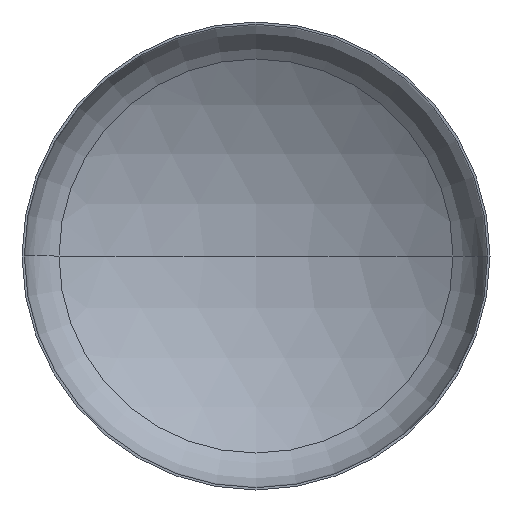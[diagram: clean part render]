
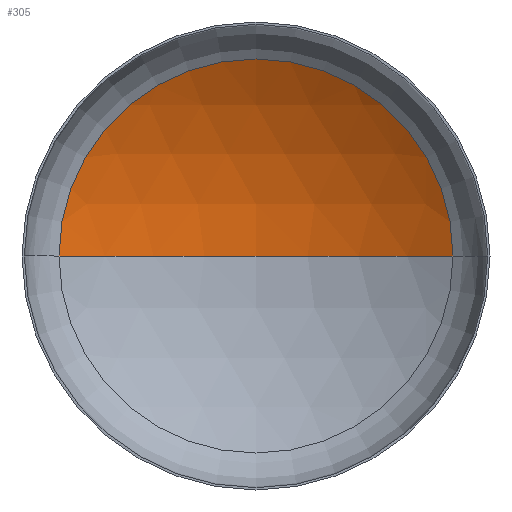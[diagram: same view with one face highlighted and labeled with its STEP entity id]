
A CAD part, front view. The second image highlights one B-rep face of the part: STEP entity #305.
In plain terms, the highlighted spherical face has radius 640 mm.
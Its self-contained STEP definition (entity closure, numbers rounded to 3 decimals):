
#8 = DIRECTION ( 'NONE',  ( -1., 0., 0. ) ) ;
#9 = DIRECTION ( 'NONE',  ( 0., 0., -1. ) ) ;
#11 = AXIS2_PLACEMENT_3D ( 'NONE', #179, #87, #270 ) ;
#23 = CIRCLE ( 'NONE', #43, 336.777 ) ;
#26 = ORIENTED_EDGE ( 'NONE', *, *, #114, .T. ) ;
#27 = CARTESIAN_POINT ( 'NONE',  ( -336.777, 126.294, 0. ) ) ;
#34 = AXIS2_PLACEMENT_3D ( 'NONE', #357, #89, #170 ) ;
#35 = AXIS2_PLACEMENT_3D ( 'NONE', #378, #9, #8 ) ;
#41 = ORIENTED_EDGE ( 'NONE', *, *, #132, .F. ) ;
#43 = AXIS2_PLACEMENT_3D ( 'NONE', #183, #186, #194 ) ;
#87 = DIRECTION ( 'NONE',  ( 0., 0., -1. ) ) ;
#89 = DIRECTION ( 'NONE',  ( 0., 0., 1. ) ) ;
#101 = EDGE_CURVE ( 'NONE', #178, #203, #23, .T. ) ;
#114 = EDGE_CURVE ( 'NONE', #181, #178, #365, .T. ) ;
#132 = EDGE_CURVE ( 'NONE', #181, #203, #159, .T. ) ;
#155 = CARTESIAN_POINT ( 'NONE',  ( 0., 222.068, 0. ) ) ;
#157 = CARTESIAN_POINT ( 'NONE',  ( 336.777, 126.294, 0. ) ) ;
#159 = CIRCLE ( 'NONE', #34, 640. ) ;
#170 = DIRECTION ( 'NONE',  ( 1., 0., 0. ) ) ;
#178 = VERTEX_POINT ( 'NONE', #157 ) ;
#179 = CARTESIAN_POINT ( 'NONE',  ( 0., -417.932, 0. ) ) ;
#181 = VERTEX_POINT ( 'NONE', #155 ) ;
#183 = CARTESIAN_POINT ( 'NONE',  ( 0., 126.294, 0. ) ) ;
#186 = DIRECTION ( 'NONE',  ( 0., -1., 0. ) ) ;
#194 = DIRECTION ( 'NONE',  ( 1., 0., 0. ) ) ;
#203 = VERTEX_POINT ( 'NONE', #27 ) ;
#214 = EDGE_LOOP ( 'NONE', ( #41, #26, #240 ) ) ;
#240 = ORIENTED_EDGE ( 'NONE', *, *, #101, .T. ) ;
#270 = DIRECTION ( 'NONE',  ( -1., 0., 0. ) ) ;
#305 = ADVANCED_FACE ( 'NONE', ( #411 ), #334, .F. ) ;
#334 = SPHERICAL_SURFACE ( 'NONE', #11, 640. ) ;
#357 = CARTESIAN_POINT ( 'NONE',  ( 0., -417.932, 0. ) ) ;
#365 = CIRCLE ( 'NONE', #35, 640. ) ;
#378 = CARTESIAN_POINT ( 'NONE',  ( 0., -417.932, 0. ) ) ;
#411 = FACE_OUTER_BOUND ( 'NONE', #214, .T. ) ;
